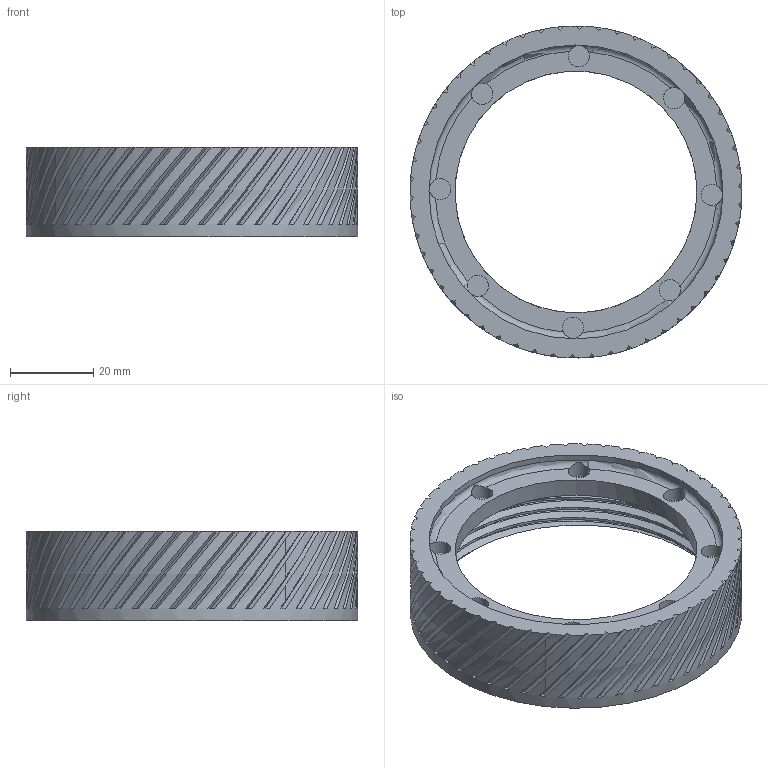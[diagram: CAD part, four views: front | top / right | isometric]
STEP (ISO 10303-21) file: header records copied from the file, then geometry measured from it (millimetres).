
FILE_DESCRIPTION(/* description */ ('STEP AP242','CAx-IF Rec.Pracs.---Representation and Presentation of Product Manufacturing Information (PMI)---4.0---2014-10-13','CAx-IF Rec.Pracs.---3D Tessellated Geometry---0.4---2014-09-14','2;1'),/* implementation_level */ '2;1');
FILE_NAME(/* name */ '646926a6cac4670533c21296',/* time_stamp */ '2023-05-20T19:59:35Z',/* author */ (''),/* organization */ (''),/* preprocessor_version */ 'ST-DEVELOPER v19.4',/* originating_system */ ' ',/* authorisation */ ' ');
FILE_SCHEMA (('AP242_MANAGED_MODEL_BASED_3D_ENGINEERING_MIM_LF { 1 0 10303 442 1 1 4 }'));
Length unit declared in the file: metre
Products named in the file (1): Base 26mm Magnet NoLug
Bounding box: 79.6 x 79.6 x 21.4 mm (x, y, z)
Volume: 27399.8 mm3; surface area: 16630.2 mm2
Topology: 1 solids, 1 shells, 244 faces, 715 edges, 477 vertices
Faces by surface type: bspline 152, plane 72, cylinder 15, cone 4, torus 1
Full cylindrical faces by diameter (mm): 5.1 x8, 58 x1, 70.5 x1, 79.6 x1
Entity records: 14652 total; most frequent: CARTESIAN_POINT 9924, ORIENTED_EDGE 1362, EDGE_CURVE 681, DIRECTION 509, VERTEX_POINT 459, B_SPLINE_CURVE_WITH_KNOTS 331, EDGE_LOOP 260, FACE_BOUND 260
